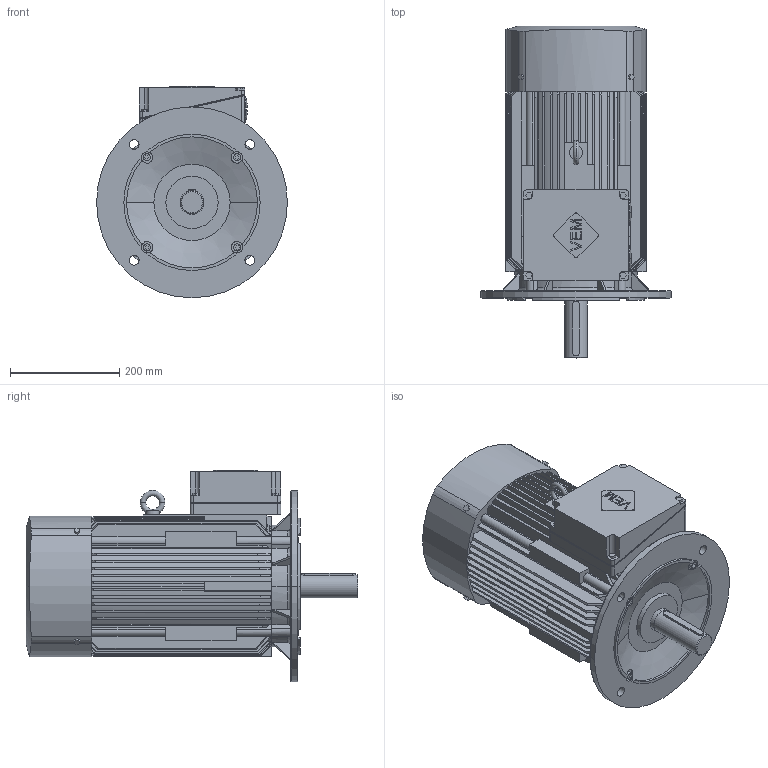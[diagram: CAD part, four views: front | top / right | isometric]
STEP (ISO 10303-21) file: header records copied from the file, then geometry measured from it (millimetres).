
FILE_DESCRIPTION(('STEP AP214'),'1');
FILE_NAME('cctmp_2E231FDB-0E1D-4D31-9BD8-98422366EA29_2026_02_09_13_53_15_0862..stp','2026-02-09T12:53:16',('VEM motors GmbH'),('CADClick - www.CADClick.com'),'Spatial InterOp 3D postprocessed',' ','unknown authorization');
FILE_SCHEMA(('AUTOMOTIVE_DESIGN'));
Length unit declared in the file: millimetre
Products named in the file (1): 1
Bounding box: 350 x 608.5 x 388 mm (x, y, z)
Volume: 26595797.1 mm3; surface area: 1311617.8 mm2
Topology: 5 solids, 5 shells, 703 faces, 1960 edges, 1292 vertices
Faces by surface type: plane 417, cylinder 166, cone 92, torus 24, bspline 4
Entity records: 28688 total; most frequent: CARTESIAN_POINT 8814, ORIENTED_EDGE 3920, DIRECTION 3518, EDGE_CURVE 1960, VERTEX_POINT 1292, AXIS2_PLACEMENT_3D 1174, LINE 1170, VECTOR 1170
